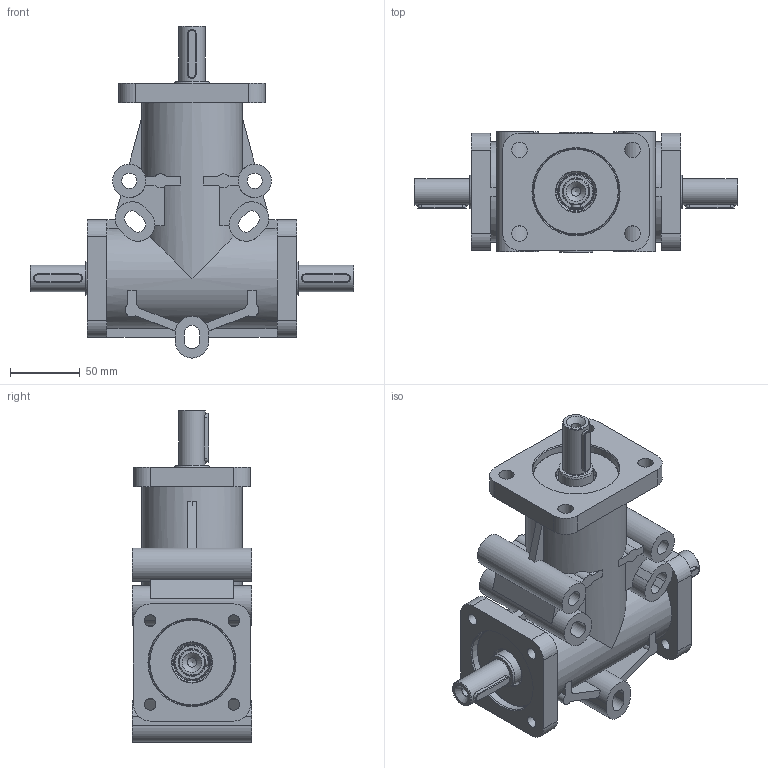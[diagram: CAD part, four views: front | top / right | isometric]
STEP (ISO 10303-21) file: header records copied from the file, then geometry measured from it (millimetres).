
FILE_DESCRIPTION((''),'2;1');
FILE_NAME('O:\Pietro\R19 FIG.3C.stp','2014-04-14T19:22:00',('p.fagiolino'),(''),'Autodesk Inventor 2012','Autodesk Inventor 2012','');
FILE_SCHEMA(('AUTOMOTIVE_DESIGN { 1 0 10303 214 1 1 1 1 }'));
Length unit declared in the file: millimetre
Products named in the file (1): FIGURINO R19 FIG
Bounding box: 232 x 86 x 238 mm (x, y, z)
Surface area: 242114.3 mm2 (no closed solid volume)
Topology: 0 solids, 9 shells, 327 faces, 837 edges, 530 vertices
Faces by surface type: plane 174, cylinder 96, cone 48, torus 9
Full cylindrical faces by diameter (mm): 6.647 x3, 8.376 x8, 11 x6, 19 x3, 24 x2, 25 x2, 28.75 x3, 30.438 x3, 58.6 x3, 62 x5, 72 x1
Entity records: 10144 total; most frequent: CARTESIAN_POINT 2072, DIRECTION 1636, ORIENTED_EDGE 1452, EDGE_CURVE 726, AXIS2_PLACEMENT_3D 622, VERTEX_POINT 506, EDGE_LOOP 470, VECTOR 392
